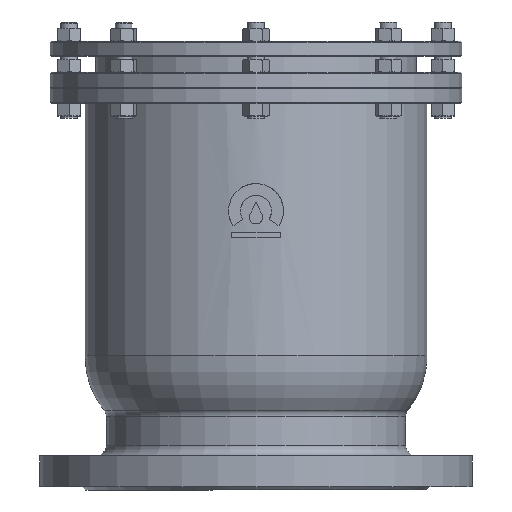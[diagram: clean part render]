
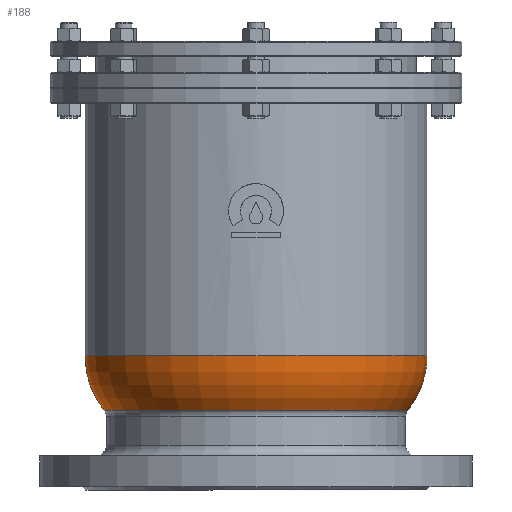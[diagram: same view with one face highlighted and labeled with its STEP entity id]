
A CAD part, front view. The second image highlights one B-rep face of the part: STEP entity #188.
In plain terms, the highlighted toroidal (fillet/blend) face has major radius 80.003 mm and minor radius 80 mm.
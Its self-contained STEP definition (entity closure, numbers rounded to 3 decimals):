
#188=ADVANCED_FACE('',(#5170,#5172),#5174,.T.);
#5170=FACE_OUTER_BOUND('',#5171,.T.);
#5171=EDGE_LOOP('',(#9317));
#5172=FACE_OUTER_BOUND('',#5173,.T.);
#5173=EDGE_LOOP('',(#9318));
#5174=TOROIDAL_SURFACE('',#5175,80.003,80.);
#5175=AXIS2_PLACEMENT_3D('',#5176,#5177,#5178);
#5176=CARTESIAN_POINT('',(0.,0.,124.919));
#5177=DIRECTION('',(0.,0.,1.));
#5178=DIRECTION('',(1.,0.,0.));
#9317=ORIENTED_EDGE('',*,*,#11550,.F.);
#9318=ORIENTED_EDGE('',*,*,#11593,.T.);
#11550=EDGE_CURVE('',#12703,#12703,#12704,.T.);
#11593=EDGE_CURVE('',#12775,#12775,#12776,.T.);
#12703=VERTEX_POINT('',#14564);
#12704=CIRCLE('',#14565,160.);
#12775=VERTEX_POINT('',#15300);
#12776=CIRCLE('',#15301,142.223);
#14564=CARTESIAN_POINT('',(160.,0.,125.657));
#14565=AXIS2_PLACEMENT_3D('',#14566,#14567,#14568);
#14566=CARTESIAN_POINT('',(0.,0.,125.657));
#14567=DIRECTION('',(0.,0.,1.));
#14568=DIRECTION('',(1.,0.,0.));
#15300=CARTESIAN_POINT('',(142.223,0.,74.632));
#15301=AXIS2_PLACEMENT_3D('',#15302,#15303,#15304);
#15302=CARTESIAN_POINT('',(0.,0.,74.632));
#15303=DIRECTION('',(0.,0.,1.));
#15304=DIRECTION('',(1.,0.,0.));
